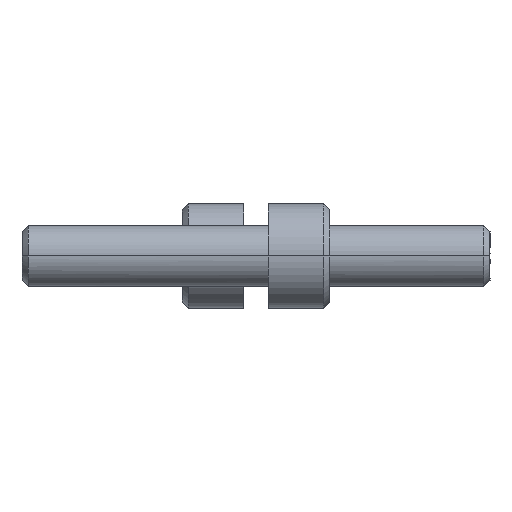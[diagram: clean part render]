
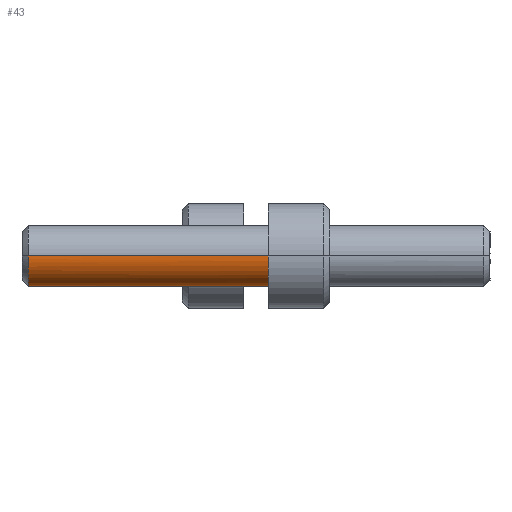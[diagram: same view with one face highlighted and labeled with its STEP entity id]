
A CAD part, front view. The second image highlights one B-rep face of the part: STEP entity #43.
In plain terms, the highlighted free-form (B-spline) face has degree [2, 1] with [9, 2] control points.
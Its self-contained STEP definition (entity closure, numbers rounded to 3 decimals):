
#43=ADVANCED_FACE('',(#93),#1481,.T.);
#93=FACE_OUTER_BOUND('',#143,.T.);
#143=EDGE_LOOP('',(#203,#204,#205,#206));
#203=ORIENTED_EDGE('',*,*,#1030,.T.);
#204=ORIENTED_EDGE('',*,*,#1031,.T.);
#205=ORIENTED_EDGE('',*,*,#1032,.T.);
#206=ORIENTED_EDGE('',*,*,#1033,.T.);
#414=(
BOUNDED_CURVE()
B_SPLINE_CURVE(2,(#1853,#1854,#1855,#1856,#1857),.UNSPECIFIED.,.F.,.F.)
B_SPLINE_CURVE_WITH_KNOTS((3,2,3),(0.,3.927,7.854),
 .UNSPECIFIED.)
CURVE()
GEOMETRIC_REPRESENTATION_ITEM()
RATIONAL_B_SPLINE_CURVE((1.,0.707,1.,0.707,1.))
REPRESENTATION_ITEM('')
);
#415=(
BOUNDED_CURVE()
B_SPLINE_CURVE(2,(#1864,#1865,#1866,#1867,#1868),.UNSPECIFIED.,.F.,.F.)
B_SPLINE_CURVE_WITH_KNOTS((3,2,3),(-7.854,-3.927,0.),
 .UNSPECIFIED.)
CURVE()
GEOMETRIC_REPRESENTATION_ITEM()
RATIONAL_B_SPLINE_CURVE((1.,0.707,1.,0.707,1.))
REPRESENTATION_ITEM('')
);
#442=(
BOUNDED_CURVE()
B_SPLINE_CURVE(2,(#2157,#2158,#2159,#2160,#2161),.UNSPECIFIED.,.F.,.F.)
B_SPLINE_CURVE_WITH_KNOTS((3,2,3),(-7.854,-3.927,0.),
 .UNSPECIFIED.)
CURVE()
GEOMETRIC_REPRESENTATION_ITEM()
RATIONAL_B_SPLINE_CURVE((1.,0.707,1.,0.707,1.))
REPRESENTATION_ITEM('')
);
#491=PCURVE('',#1481,#707);
#492=PCURVE('',#1481,#708);
#493=PCURVE('',#1481,#709);
#494=PCURVE('',#1481,#710);
#498=PCURVE('',#1482,#714);
#567=PCURVE('',#1486,#783);
#569=PCURVE('',#1486,#785);
#574=PCURVE('',#1462,#790);
#707=DEFINITIONAL_REPRESENTATION('',(#1144),#2838);
#708=DEFINITIONAL_REPRESENTATION('',(#1145),#2838);
#709=DEFINITIONAL_REPRESENTATION('',(#1147),#2838);
#710=DEFINITIONAL_REPRESENTATION('',(#1148),#2838);
#714=DEFINITIONAL_REPRESENTATION('',(#1154),#2838);
#783=DEFINITIONAL_REPRESENTATION('',(#1239),#2838);
#785=DEFINITIONAL_REPRESENTATION('',(#1241),#2838);
#790=DEFINITIONAL_REPRESENTATION('',(#442),#2838);
#922=SURFACE_CURVE('',#1143,(#491,#567),.PCURVE_S1.);
#923=SURFACE_CURVE('',#414,(#492,#498),.PCURVE_S1.);
#924=SURFACE_CURVE('',#1146,(#493,#569),.PCURVE_S1.);
#925=SURFACE_CURVE('',#415,(#494,#574),.PCURVE_S1.);
#1030=EDGE_CURVE('',#1389,#1390,#922,.T.);
#1031=EDGE_CURVE('',#1390,#1391,#923,.T.);
#1032=EDGE_CURVE('',#1391,#1392,#924,.T.);
#1033=EDGE_CURVE('',#1392,#1389,#925,.T.);
#1143=B_SPLINE_CURVE_WITH_KNOTS('',1,(#1849,#1850),.UNSPECIFIED.,.F.,.F.,
(2,2),(-19.51,0.),.UNSPECIFIED.);
#1144=B_SPLINE_CURVE_WITH_KNOTS('',1,(#1851,#1852),.UNSPECIFIED.,.F.,.F.,
(2,2),(-19.51,0.),.UNSPECIFIED.);
#1145=B_SPLINE_CURVE_WITH_KNOTS('',1,(#1858,#1859),.UNSPECIFIED.,.F.,.F.,
(2,2),(0.,7.854),.UNSPECIFIED.);
#1146=B_SPLINE_CURVE_WITH_KNOTS('',1,(#1860,#1861),.UNSPECIFIED.,.F.,.F.,
(2,2),(-19.51,0.),.UNSPECIFIED.);
#1147=B_SPLINE_CURVE_WITH_KNOTS('',1,(#1862,#1863),.UNSPECIFIED.,.F.,.F.,
(2,2),(-19.51,0.),.UNSPECIFIED.);
#1148=B_SPLINE_CURVE_WITH_KNOTS('',1,(#1869,#1870),.UNSPECIFIED.,.F.,.F.,
(2,2),(-7.854,0.),.UNSPECIFIED.);
#1154=B_SPLINE_CURVE_WITH_KNOTS('',1,(#1886,#1887),.UNSPECIFIED.,.F.,.F.,
(2,2),(0.,7.854),.UNSPECIFIED.);
#1239=B_SPLINE_CURVE_WITH_KNOTS('',1,(#2124,#2125),.UNSPECIFIED.,.F.,.F.,
(2,2),(-19.51,0.),.UNSPECIFIED.);
#1241=B_SPLINE_CURVE_WITH_KNOTS('',1,(#2133,#2134),.UNSPECIFIED.,.F.,.F.,
(2,2),(-19.51,0.),.UNSPECIFIED.);
#1389=VERTEX_POINT('',#1783);
#1390=VERTEX_POINT('',#1784);
#1391=VERTEX_POINT('',#1785);
#1392=VERTEX_POINT('',#1786);
#1462=PLANE('',#1532);
#1481=(
BOUNDED_SURFACE()
B_SPLINE_SURFACE(2,1,((#1618,#1619),(#1620,#1621),(#1622,#1623),(#1624,#1625),
(#1626,#1627),(#1628,#1629),(#1630,#1631),(#1632,#1633),(#1634,#1635)),
 .UNSPECIFIED.,.T.,.F.,.F.)
B_SPLINE_SURFACE_WITH_KNOTS((3,2,2,2,3),(2,2),(0.,1.571,3.142,
4.712,6.283),(0.,23.414),.UNSPECIFIED.)
GEOMETRIC_REPRESENTATION_ITEM()
RATIONAL_B_SPLINE_SURFACE(((1.,1.),(0.707,0.707),
(1.,1.),(0.707,0.707),(1.,1.),(0.707,
0.707),(1.,1.),(0.707,0.707),(1.,1.)))
REPRESENTATION_ITEM('')
SURFACE()
);
#1482=(
BOUNDED_SURFACE()
B_SPLINE_SURFACE(2,1,((#1636,#1637),(#1638,#1639),(#1640,#1641),(#1642,#1643),
(#1644,#1645),(#1646,#1647),(#1648,#1649),(#1650,#1651),(#1652,#1653)),
 .UNSPECIFIED.,.T.,.F.,.F.)
B_SPLINE_SURFACE_WITH_KNOTS((3,2,2,2,3),(2,2),(0.,1.571,3.142,
4.712,6.283),(0.,3.891),.UNSPECIFIED.)
GEOMETRIC_REPRESENTATION_ITEM()
RATIONAL_B_SPLINE_SURFACE(((1.,1.),(0.707,0.707),
(1.,1.),(0.707,0.707),(1.,1.),(0.707,
0.707),(1.,1.),(0.707,0.707),(1.,1.)))
REPRESENTATION_ITEM('')
SURFACE()
);
#1486=(
BOUNDED_SURFACE()
B_SPLINE_SURFACE(2,1,((#1721,#1722),(#1723,#1724),(#1725,#1726),(#1727,#1728),
(#1729,#1730),(#1731,#1732),(#1733,#1734),(#1735,#1736),(#1737,#1738)),
 .UNSPECIFIED.,.T.,.F.,.F.)
B_SPLINE_SURFACE_WITH_KNOTS((3,2,2,2,3),(2,2),(0.,1.571,3.142,
4.712,6.283),(0.,23.414),.UNSPECIFIED.)
GEOMETRIC_REPRESENTATION_ITEM()
RATIONAL_B_SPLINE_SURFACE(((1.,1.),(0.707,0.707),
(1.,1.),(0.707,0.707),(1.,1.),(0.707,
0.707),(1.,1.),(0.707,0.707),(1.,1.)))
REPRESENTATION_ITEM('')
SURFACE()
);
#1532=AXIS2_PLACEMENT_3D('',#1739,#1564,$);
#1564=DIRECTION('',(1.,0.,0.));
#1618=CARTESIAN_POINT('',(798.952,-201.,152.5));
#1619=CARTESIAN_POINT('',(775.538,-201.,152.5));
#1620=CARTESIAN_POINT('',(798.952,-203.5,152.5));
#1621=CARTESIAN_POINT('',(775.538,-203.5,152.5));
#1622=CARTESIAN_POINT('',(798.952,-203.5,150.));
#1623=CARTESIAN_POINT('',(775.538,-203.5,150.));
#1624=CARTESIAN_POINT('',(798.952,-203.5,147.5));
#1625=CARTESIAN_POINT('',(775.538,-203.5,147.5));
#1626=CARTESIAN_POINT('',(798.952,-201.,147.5));
#1627=CARTESIAN_POINT('',(775.538,-201.,147.5));
#1628=CARTESIAN_POINT('',(798.952,-198.5,147.5));
#1629=CARTESIAN_POINT('',(775.538,-198.5,147.5));
#1630=CARTESIAN_POINT('',(798.952,-198.5,150.));
#1631=CARTESIAN_POINT('',(775.538,-198.5,150.));
#1632=CARTESIAN_POINT('',(798.952,-198.5,152.5));
#1633=CARTESIAN_POINT('',(775.538,-198.5,152.5));
#1634=CARTESIAN_POINT('',(798.952,-201.,152.5));
#1635=CARTESIAN_POINT('',(775.538,-201.,152.5));
#1636=CARTESIAN_POINT('',(774.991,-201.,150.));
#1637=CARTESIAN_POINT('',(777.742,-201.,152.751));
#1638=CARTESIAN_POINT('',(774.991,-201.,150.));
#1639=CARTESIAN_POINT('',(777.742,-198.249,152.751));
#1640=CARTESIAN_POINT('',(774.991,-201.,150.));
#1641=CARTESIAN_POINT('',(777.742,-198.249,150.));
#1642=CARTESIAN_POINT('',(774.991,-201.,150.));
#1643=CARTESIAN_POINT('',(777.742,-198.249,147.249));
#1644=CARTESIAN_POINT('',(774.991,-201.,150.));
#1645=CARTESIAN_POINT('',(777.742,-201.,147.249));
#1646=CARTESIAN_POINT('',(774.991,-201.,150.));
#1647=CARTESIAN_POINT('',(777.742,-203.751,147.249));
#1648=CARTESIAN_POINT('',(774.991,-201.,150.));
#1649=CARTESIAN_POINT('',(777.742,-203.751,150.));
#1650=CARTESIAN_POINT('',(774.991,-201.,150.));
#1651=CARTESIAN_POINT('',(777.742,-203.751,152.751));
#1652=CARTESIAN_POINT('',(774.991,-201.,150.));
#1653=CARTESIAN_POINT('',(777.742,-201.,152.751));
#1721=CARTESIAN_POINT('',(798.952,-201.,147.5));
#1722=CARTESIAN_POINT('',(775.538,-201.,147.5));
#1723=CARTESIAN_POINT('',(798.952,-198.5,147.5));
#1724=CARTESIAN_POINT('',(775.538,-198.5,147.5));
#1725=CARTESIAN_POINT('',(798.952,-198.5,150.));
#1726=CARTESIAN_POINT('',(775.538,-198.5,150.));
#1727=CARTESIAN_POINT('',(798.952,-198.5,152.5));
#1728=CARTESIAN_POINT('',(775.538,-198.5,152.5));
#1729=CARTESIAN_POINT('',(798.952,-201.,152.5));
#1730=CARTESIAN_POINT('',(775.538,-201.,152.5));
#1731=CARTESIAN_POINT('',(798.952,-203.5,152.5));
#1732=CARTESIAN_POINT('',(775.538,-203.5,152.5));
#1733=CARTESIAN_POINT('',(798.952,-203.5,150.));
#1734=CARTESIAN_POINT('',(775.538,-203.5,150.));
#1735=CARTESIAN_POINT('',(798.952,-203.5,147.5));
#1736=CARTESIAN_POINT('',(775.538,-203.5,147.5));
#1737=CARTESIAN_POINT('',(798.952,-201.,147.5));
#1738=CARTESIAN_POINT('',(775.538,-201.,147.5));
#1739=CARTESIAN_POINT('',(797.,-195.899,155.101));
#1783=CARTESIAN_POINT('',(797.,-198.5,150.));
#1784=CARTESIAN_POINT('',(777.491,-198.5,150.));
#1785=CARTESIAN_POINT('',(777.491,-203.5,150.));
#1786=CARTESIAN_POINT('',(797.,-203.5,150.));
#1849=CARTESIAN_POINT('',(797.,-198.5,150.));
#1850=CARTESIAN_POINT('',(777.491,-198.5,150.));
#1851=CARTESIAN_POINT('',(4.712,1.952));
#1852=CARTESIAN_POINT('',(4.712,21.462));
#1853=CARTESIAN_POINT('',(777.491,-198.5,150.));
#1854=CARTESIAN_POINT('',(777.491,-198.5,147.5));
#1855=CARTESIAN_POINT('',(777.491,-201.,147.5));
#1856=CARTESIAN_POINT('',(777.491,-203.5,147.5));
#1857=CARTESIAN_POINT('',(777.491,-203.5,150.));
#1858=CARTESIAN_POINT('',(4.712,21.462));
#1859=CARTESIAN_POINT('',(1.571,21.462));
#1860=CARTESIAN_POINT('',(777.491,-203.5,150.));
#1861=CARTESIAN_POINT('',(797.,-203.5,150.));
#1862=CARTESIAN_POINT('',(1.571,21.462));
#1863=CARTESIAN_POINT('',(1.571,1.952));
#1864=CARTESIAN_POINT('',(797.,-203.5,150.));
#1865=CARTESIAN_POINT('',(797.,-203.5,147.5));
#1866=CARTESIAN_POINT('',(797.,-201.,147.5));
#1867=CARTESIAN_POINT('',(797.,-198.5,147.5));
#1868=CARTESIAN_POINT('',(797.,-198.5,150.));
#1869=CARTESIAN_POINT('',(1.571,1.952));
#1870=CARTESIAN_POINT('',(4.712,1.952));
#1886=CARTESIAN_POINT('',(1.571,3.536));
#1887=CARTESIAN_POINT('',(4.712,3.536));
#2124=CARTESIAN_POINT('',(1.571,1.952));
#2125=CARTESIAN_POINT('',(1.571,21.462));
#2133=CARTESIAN_POINT('',(4.712,21.462));
#2134=CARTESIAN_POINT('',(4.712,1.952));
#2157=CARTESIAN_POINT('',(5.875,0.));
#2158=CARTESIAN_POINT('',(5.875,2.5));
#2159=CARTESIAN_POINT('',(3.375,2.5));
#2160=CARTESIAN_POINT('',(0.875,2.5));
#2161=CARTESIAN_POINT('',(0.875,0.));
#2838=(
GEOMETRIC_REPRESENTATION_CONTEXT(2)
PARAMETRIC_REPRESENTATION_CONTEXT()
REPRESENTATION_CONTEXT('pspace','')
);
